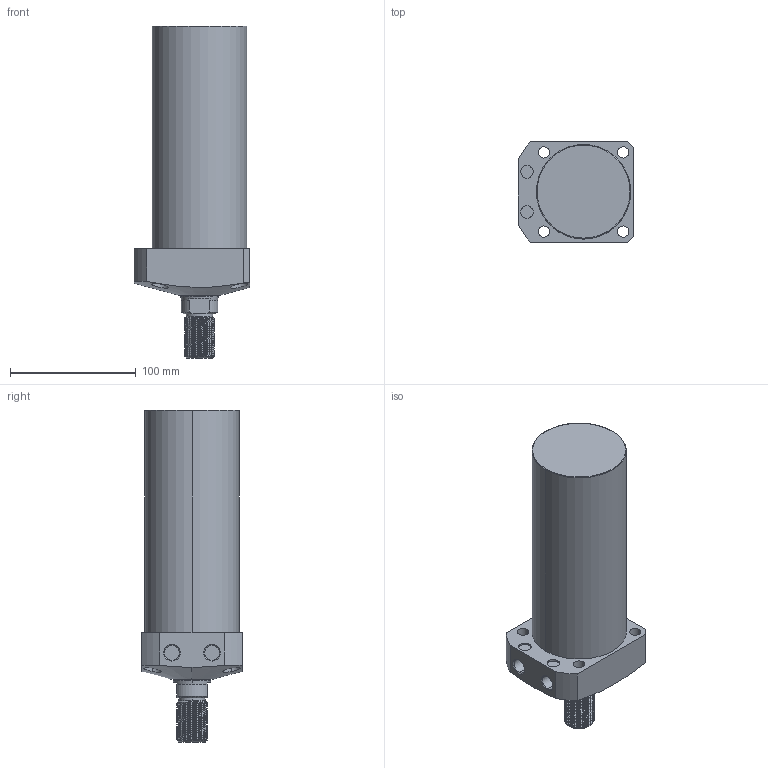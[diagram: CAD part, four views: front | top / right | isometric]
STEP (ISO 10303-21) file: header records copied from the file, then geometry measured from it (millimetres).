
FILE_DESCRIPTION (( 'STEP AP203' ), '1' );
FILE_NAME ('CLL-075CT-140.STEP', '2020-01-08T12:10:05', ( '' ), ( '' ), 'SwSTEP 2.0', 'SolidWorks 2015', '' );
FILE_SCHEMA (( 'CONFIG_CONTROL_DESIGN' ));
Length unit declared in the file: millimetre
Products named in the file (1): CLL-075CT-140
Bounding box: 92 x 80 x 264 mm (x, y, z)
Volume: 1023283.9 mm3; surface area: 76442.6 mm2
Topology: 1 solids, 1 shells, 121 faces, 310 edges, 202 vertices
Faces by surface type: cylinder 77, plane 23, cone 17, torus 2, bspline 2
Entity records: 6513 total; most frequent: CARTESIAN_POINT 3723, ORIENTED_EDGE 620, DIRECTION 517, EDGE_CURVE 310, AXIS2_PLACEMENT_3D 204, VERTEX_POINT 202, EDGE_LOOP 140, ADVANCED_FACE 121
